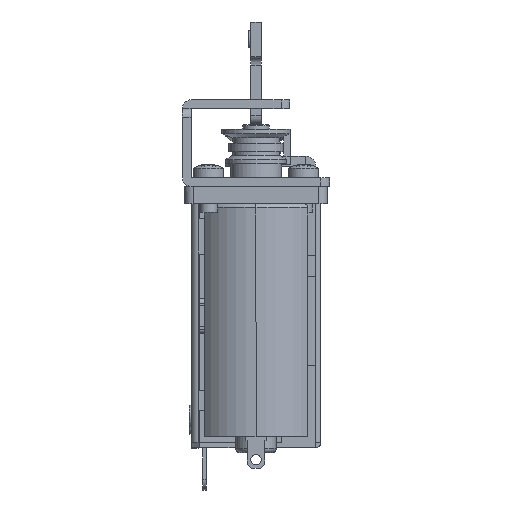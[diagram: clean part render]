
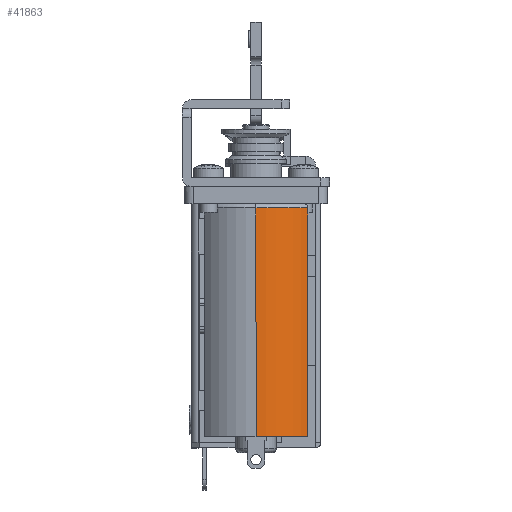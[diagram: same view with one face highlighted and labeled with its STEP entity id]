
A CAD part, left-side view. The second image highlights one B-rep face of the part: STEP entity #41863.
In plain terms, the highlighted cylindrical face has radius 7.75 mm (diameter 15.5 mm), a partial arc.
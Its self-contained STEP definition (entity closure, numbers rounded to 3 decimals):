
#28739 = TOROIDAL_SURFACE('',#28740,7.25,0.5);
#28740 = AXIS2_PLACEMENT_3D('',#28741,#28742,#28743);
#28741 = CARTESIAN_POINT('',(-76.5,0.,-12.5));
#28742 = DIRECTION('',(0.,0.,1.));
#28743 = DIRECTION('',(-1.,0.,0.));
#34537 = VERTEX_POINT('',#34538);
#34538 = CARTESIAN_POINT('',(-84.25,0.,-12.5));
#34558 = EDGE_CURVE('',#34537,#34559,#34561,.T.);
#34559 = VERTEX_POINT('',#34560);
#34560 = CARTESIAN_POINT('',(-81.405,-6.,-12.5));
#34561 = SURFACE_CURVE('',#34562,(#34567,#34574),.PCURVE_S1.);
#34562 = CIRCLE('',#34563,7.75);
#34563 = AXIS2_PLACEMENT_3D('',#34564,#34565,#34566);
#34564 = CARTESIAN_POINT('',(-76.5,0.,-12.5));
#34565 = DIRECTION('',(0.,0.,1.));
#34566 = DIRECTION('',(-1.,0.,0.));
#34567 = PCURVE('',#28739,#34568);
#34568 = DEFINITIONAL_REPRESENTATION('',(#34569),#34573);
#34569 = LINE('',#34570,#34571);
#34570 = CARTESIAN_POINT('',(0.,0.));
#34571 = VECTOR('',#34572,1.);
#34572 = DIRECTION('',(1.,0.));
#34573 = ( GEOMETRIC_REPRESENTATION_CONTEXT(2) 
PARAMETRIC_REPRESENTATION_CONTEXT() REPRESENTATION_CONTEXT('2D SPACE',''
  ) );
#34574 = PCURVE('',#34575,#34580);
#34575 = CYLINDRICAL_SURFACE('',#34576,7.75);
#34576 = AXIS2_PLACEMENT_3D('',#34577,#34578,#34579);
#34577 = CARTESIAN_POINT('',(-76.5,0.,-12.));
#34578 = DIRECTION('',(0.,0.,1.));
#34579 = DIRECTION('',(-1.,0.,0.));
#34580 = DEFINITIONAL_REPRESENTATION('',(#34581),#34585);
#34581 = LINE('',#34582,#34583);
#34582 = CARTESIAN_POINT('',(0.,-0.5));
#34583 = VECTOR('',#34584,1.);
#34584 = DIRECTION('',(1.,0.));
#34585 = ( GEOMETRIC_REPRESENTATION_CONTEXT(2) 
PARAMETRIC_REPRESENTATION_CONTEXT() REPRESENTATION_CONTEXT('2D SPACE',''
  ) );
#34674 = PLANE('',#34675);
#34675 = AXIS2_PLACEMENT_3D('',#34676,#34677,#34678);
#34676 = CARTESIAN_POINT('',(-64.5,-6.,-45.));
#34677 = DIRECTION('',(0.,-1.,0.));
#34678 = DIRECTION('',(0.,0.,1.));
#34971 = CYLINDRICAL_SURFACE('',#34972,7.75);
#34972 = AXIS2_PLACEMENT_3D('',#34973,#34974,#34975);
#34973 = CARTESIAN_POINT('',(-76.5,0.,-12.));
#34974 = DIRECTION('',(0.,0.,1.));
#34975 = DIRECTION('',(-1.,0.,0.));
#41863 = ADVANCED_FACE('',(#41864),#34575,.T.);
#41864 = FACE_BOUND('',#41865,.T.);
#41865 = EDGE_LOOP('',(#41866,#41887,#41888,#41911));
#41866 = ORIENTED_EDGE('',*,*,#41867,.T.);
#41867 = EDGE_CURVE('',#41868,#34559,#41870,.T.);
#41868 = VERTEX_POINT('',#41869);
#41869 = CARTESIAN_POINT('',(-81.405,-6.,-38.9));
#41870 = SURFACE_CURVE('',#41871,(#41875,#41881),.PCURVE_S1.);
#41871 = LINE('',#41872,#41873);
#41872 = CARTESIAN_POINT('',(-81.405,-6.,-12.));
#41873 = VECTOR('',#41874,1.);
#41874 = DIRECTION('',(0.,0.,1.));
#41875 = PCURVE('',#34575,#41876);
#41876 = DEFINITIONAL_REPRESENTATION('',(#41877),#41880);
#41877 = B_SPLINE_CURVE_WITH_KNOTS('',1,(#41878,#41879),.UNSPECIFIED.,
  .F.,.F.,(2,2),(-26.9,0.),.PIECEWISE_BEZIER_KNOTS.);
#41878 = CARTESIAN_POINT('',(0.885,-26.9));
#41879 = CARTESIAN_POINT('',(0.885,0.));
#41880 = ( GEOMETRIC_REPRESENTATION_CONTEXT(2) 
PARAMETRIC_REPRESENTATION_CONTEXT() REPRESENTATION_CONTEXT('2D SPACE',''
  ) );
#41881 = PCURVE('',#34674,#41882);
#41882 = DEFINITIONAL_REPRESENTATION('',(#41883),#41886);
#41883 = B_SPLINE_CURVE_WITH_KNOTS('',1,(#41884,#41885),.UNSPECIFIED.,
  .F.,.F.,(2,2),(-26.9,0.),.PIECEWISE_BEZIER_KNOTS.);
#41884 = CARTESIAN_POINT('',(6.1,16.905));
#41885 = CARTESIAN_POINT('',(33.,16.905));
#41886 = ( GEOMETRIC_REPRESENTATION_CONTEXT(2) 
PARAMETRIC_REPRESENTATION_CONTEXT() REPRESENTATION_CONTEXT('2D SPACE',''
  ) );
#41887 = ORIENTED_EDGE('',*,*,#34558,.F.);
#41888 = ORIENTED_EDGE('',*,*,#41889,.T.);
#41889 = EDGE_CURVE('',#34537,#41890,#41892,.T.);
#41890 = VERTEX_POINT('',#41891);
#41891 = CARTESIAN_POINT('',(-84.25,0.,-38.9));
#41892 = SURFACE_CURVE('',#41893,(#41897,#41904),.PCURVE_S1.);
#41893 = LINE('',#41894,#41895);
#41894 = CARTESIAN_POINT('',(-84.25,0.,-12.));
#41895 = VECTOR('',#41896,1.);
#41896 = DIRECTION('',(0.,0.,-1.));
#41897 = PCURVE('',#34575,#41898);
#41898 = DEFINITIONAL_REPRESENTATION('',(#41899),#41903);
#41899 = LINE('',#41900,#41901);
#41900 = CARTESIAN_POINT('',(0.,0.));
#41901 = VECTOR('',#41902,1.);
#41902 = DIRECTION('',(0.,-1.));
#41903 = ( GEOMETRIC_REPRESENTATION_CONTEXT(2) 
PARAMETRIC_REPRESENTATION_CONTEXT() REPRESENTATION_CONTEXT('2D SPACE',''
  ) );
#41904 = PCURVE('',#34971,#41905);
#41905 = DEFINITIONAL_REPRESENTATION('',(#41906),#41910);
#41906 = LINE('',#41907,#41908);
#41907 = CARTESIAN_POINT('',(6.283,0.));
#41908 = VECTOR('',#41909,1.);
#41909 = DIRECTION('',(0.,-1.));
#41910 = ( GEOMETRIC_REPRESENTATION_CONTEXT(2) 
PARAMETRIC_REPRESENTATION_CONTEXT() REPRESENTATION_CONTEXT('2D SPACE',''
  ) );
#41911 = ORIENTED_EDGE('',*,*,#41912,.T.);
#41912 = EDGE_CURVE('',#41890,#41868,#41913,.T.);
#41913 = SURFACE_CURVE('',#41914,(#41919,#41926),.PCURVE_S1.);
#41914 = CIRCLE('',#41915,7.75);
#41915 = AXIS2_PLACEMENT_3D('',#41916,#41917,#41918);
#41916 = CARTESIAN_POINT('',(-76.5,0.,-38.9));
#41917 = DIRECTION('',(0.,0.,1.));
#41918 = DIRECTION('',(-1.,0.,0.));
#41919 = PCURVE('',#34575,#41920);
#41920 = DEFINITIONAL_REPRESENTATION('',(#41921),#41925);
#41921 = LINE('',#41922,#41923);
#41922 = CARTESIAN_POINT('',(0.,-26.9));
#41923 = VECTOR('',#41924,1.);
#41924 = DIRECTION('',(1.,0.));
#41925 = ( GEOMETRIC_REPRESENTATION_CONTEXT(2) 
PARAMETRIC_REPRESENTATION_CONTEXT() REPRESENTATION_CONTEXT('2D SPACE',''
  ) );
#41926 = PCURVE('',#41927,#41932);
#41927 = PLANE('',#41928);
#41928 = AXIS2_PLACEMENT_3D('',#41929,#41930,#41931);
#41929 = CARTESIAN_POINT('',(-76.5,0.,-38.9));
#41930 = DIRECTION('',(0.,0.,1.));
#41931 = DIRECTION('',(-1.,0.,0.));
#41932 = DEFINITIONAL_REPRESENTATION('',(#41933),#41937);
#41933 = CIRCLE('',#41934,7.75);
#41934 = AXIS2_PLACEMENT_2D('',#41935,#41936);
#41935 = CARTESIAN_POINT('',(0.,0.));
#41936 = DIRECTION('',(1.,0.));
#41937 = ( GEOMETRIC_REPRESENTATION_CONTEXT(2) 
PARAMETRIC_REPRESENTATION_CONTEXT() REPRESENTATION_CONTEXT('2D SPACE',''
  ) );
